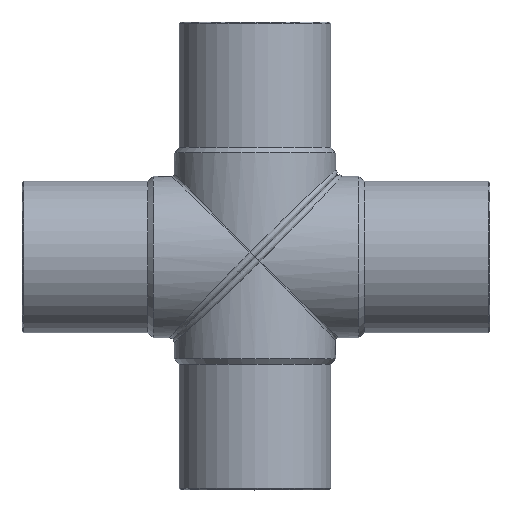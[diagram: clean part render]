
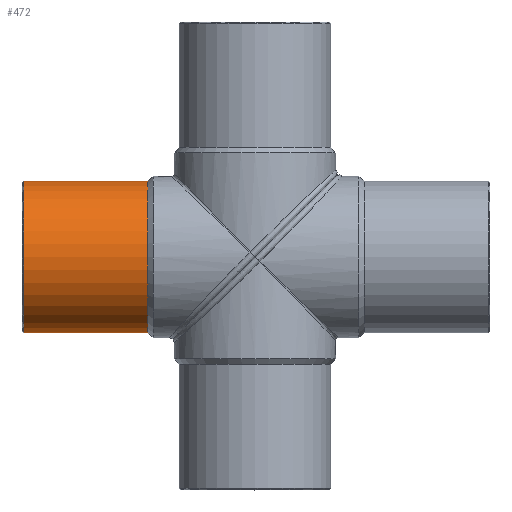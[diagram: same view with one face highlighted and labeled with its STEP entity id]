
A CAD part, top view. The second image highlights one B-rep face of the part: STEP entity #472.
In plain terms, the highlighted cylindrical face has radius 55 mm (diameter 110 mm), a full revolution.
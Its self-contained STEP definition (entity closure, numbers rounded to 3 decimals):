
#46=CIRCLE('',#536,55.);
#47=CIRCLE('',#538,55.);
#70=CYLINDRICAL_SURFACE('',#537,55.);
#123=ORIENTED_EDGE('',*,*,#241,.T.);
#124=ORIENTED_EDGE('',*,*,#240,.T.);
#240=EDGE_CURVE('',#299,#299,#46,.T.);
#241=EDGE_CURVE('',#300,#300,#47,.T.);
#299=VERTEX_POINT('',#897);
#300=VERTEX_POINT('',#900);
#354=EDGE_LOOP('',(#123));
#355=EDGE_LOOP('',(#124));
#412=FACE_BOUND('',#354,.T.);
#413=FACE_BOUND('',#355,.T.);
#472=ADVANCED_FACE('',(#412,#413),#70,.T.);
#536=AXIS2_PLACEMENT_3D('',#896,#610,#611);
#537=AXIS2_PLACEMENT_3D('',#898,#612,#613);
#538=AXIS2_PLACEMENT_3D('',#899,#614,#615);
#610=DIRECTION('',(-1.,0.,0.));
#611=DIRECTION('',(0.,0.,1.));
#612=DIRECTION('',(-1.,0.,0.));
#613=DIRECTION('',(0.,0.,1.));
#614=DIRECTION('',(1.,0.,0.));
#615=DIRECTION('',(0.,0.,-1.));
#896=CARTESIAN_POINT('',(-78.,0.,0.));
#897=CARTESIAN_POINT('',(-78.,0.,55.));
#898=CARTESIAN_POINT('',(-60.,0.,0.));
#899=CARTESIAN_POINT('',(-168.,0.,0.));
#900=CARTESIAN_POINT('',(-168.,0.,-55.));
